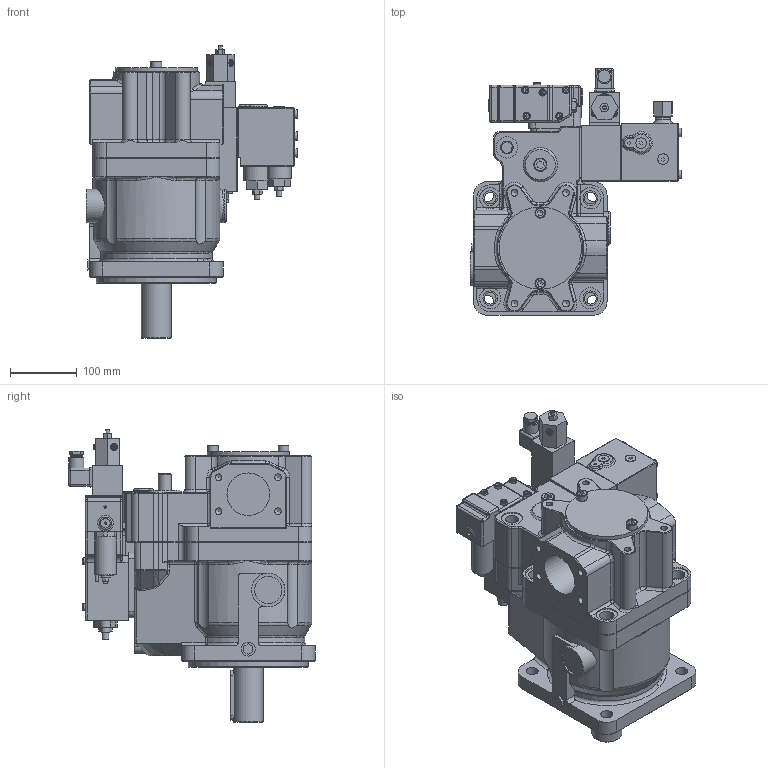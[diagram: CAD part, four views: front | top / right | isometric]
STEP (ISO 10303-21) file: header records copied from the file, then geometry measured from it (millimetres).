
FILE_DESCRIPTION(/* description */ (''),/* implementation_level */ '2;1');
FILE_NAME(/* name */ 'J:\3D Step files\Approved for WEB\K3V\K3VL140 B 1NRMM PV_1-E0.stp',/* time_stamp */ '2014-07-09T09:22:23+01:00',/* author */ ('mnorman'),/* organization */ (''),/* preprocessor_version */ 'ST-DEVELOPER v15.6',/* originating_system */ 'Autodesk Inventor 2015',/* authorisation */ '');
FILE_SCHEMA (('AUTOMOTIVE_DESIGN { 1 0 10303 214 3 1 1 }'));
Products named in the file (1): K3VL140 B 1NRMM PV_1-E0
Bounding box: 317 x 368.7 x 439 mm (x, y, z)
Volume: 13397066.2 mm3; surface area: 817325.6 mm2
Topology: 1 solids, 52 shells, 2272 faces, 5294 edges, 3222 vertices
Faces by surface type: plane 1130, cylinder 537, cone 349, torus 106, bspline 103, sphere 47
Full cylindrical faces by diameter (mm): 0.889 x1, 1.6 x4, 2 x1, 4 x11, 4.089 x1, 4.3 x2, 4.917 x4, 5 x13, 6 x12, 6.2 x11, 6.6 x9, 6.647 x12, 6.8 x2, 6.858 x1, 7.671 x1, 8 x12, 8.5 x5, 9 x6, 9.347 x2, 9.4 x4, 9.5 x5, 9.881 x1, 10 x13, 10.106 x8, 11 x15, 11.4 x2, 11.835 x4, 12 x1, 12.2 x1, 12.376 x1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
Entity records: 65849 total; most frequent: CARTESIAN_POINT 15848, DIRECTION 10043, ORIENTED_EDGE 9142, EDGE_CURVE 4571, AXIS2_PLACEMENT_3D 3898, VERTEX_POINT 3012, EDGE_LOOP 2935, FACE_OUTER_BOUND 2270
